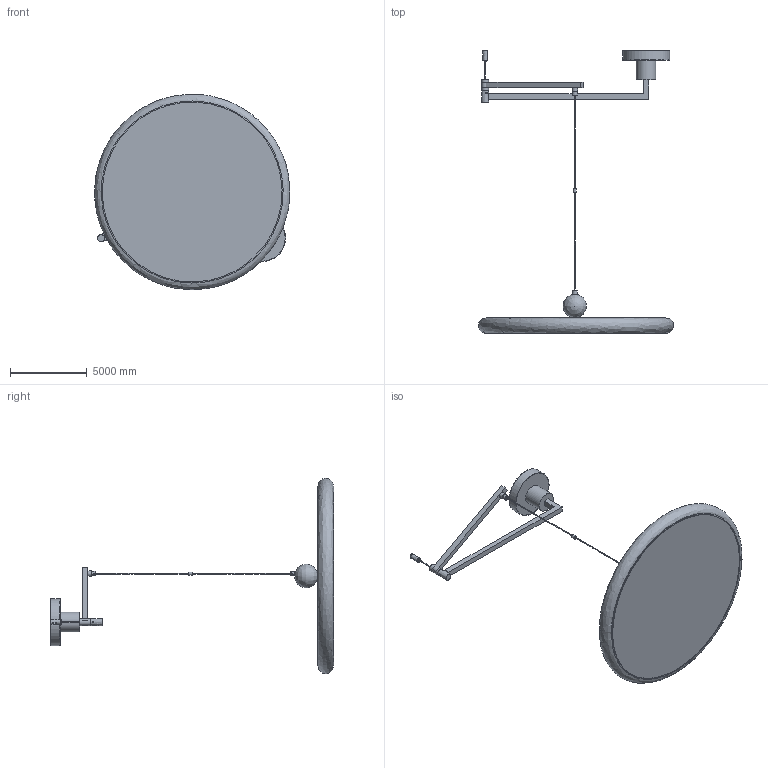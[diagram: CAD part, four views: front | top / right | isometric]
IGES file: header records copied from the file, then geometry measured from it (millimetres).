
Global section: file name: Lola Swing Pendant Lamp; native system: AutoCAD 2022 - 简体中文 (Simplified Chinese),62HAuto; preprocessor: desk Translation Framework DWG producer (atf_dwg_producer); organization: unknown; date: 20250709.154249; units: inch
Bounding box: 12674.64 x 18391.83 x 12699.37 mm (x, y, z)
Volume: 13952093015.6 mm3; surface area: 632520106.9 mm2
Topology: 17 solids, 17 shells, 89 faces, 186 edges, 135 vertices
Faces by surface type: bspline 89
